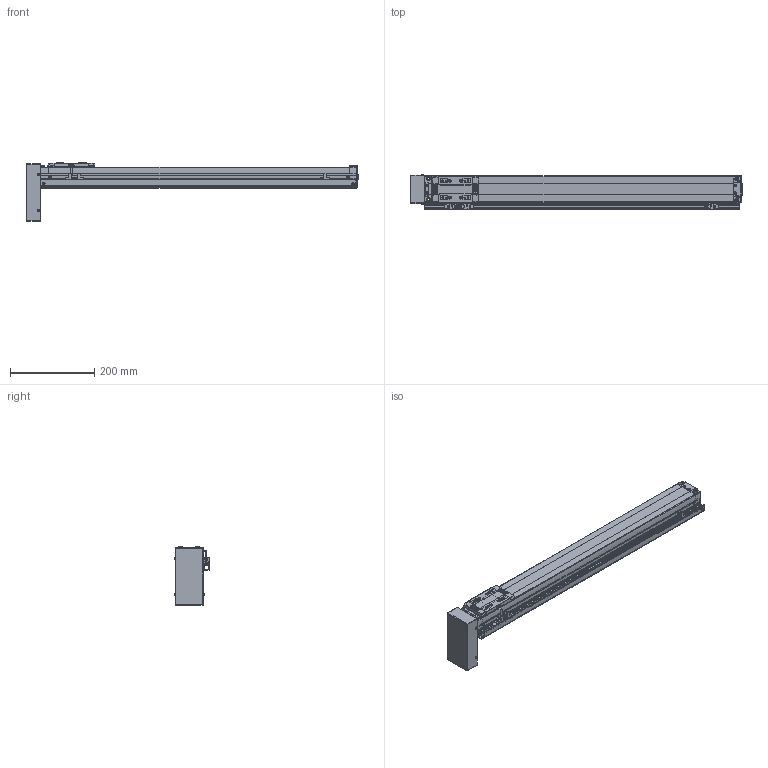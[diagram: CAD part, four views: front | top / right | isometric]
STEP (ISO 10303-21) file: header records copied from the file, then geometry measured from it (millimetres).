
FILE_DESCRIPTION(('STEP AP203'),'1');
FILE_NAME('Z:/Web/3D/SAN65/2012.ver/STP/600/SAN65ㅁㅁ-600PB+3SR.stp','2014-06-13T04:42:34',(' '),(' '),'Spatial InterOp 3D',' ',' ');
FILE_SCHEMA(('CONFIG_CONTROL_DESIGN'));
Length unit declared in the file: millimetre
Products named in the file (46): 1; 2; 3; 4; 5; 6; 7; 8; 9; 10; 11; 12; 13; 14; 15; 16; 17; 18; 19; 20; 21; 22; 23; 24; 25; 26; 27; 28; 29; 30; 31; 32; 33; 34; 35; 36; 37; 38; 39; 40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
Bounding box: 790.15 x 84.06 x 138.5 mm (x, y, z)
Volume: 2787180.8 mm3; surface area: 389541 mm2
Topology: 46 solids, 46 shells, 2324 faces, 6046 edges, 3897 vertices
Faces by surface type: plane 1292, cylinder 721, cone 199, sphere 60, bspline 28, torus 18, extrusion 6
Full cylindrical faces by diameter (mm): 2.132 x1, 3.5 x2, 6 x2
Entity records: 75553 total; most frequent: CARTESIAN_POINT 15263, DIRECTION 12514, ORIENTED_EDGE 11884, EDGE_CURVE 5942, AXIS2_PLACEMENT_3D 4344, VERTEX_POINT 3896, VECTOR 3826, LINE 3820
